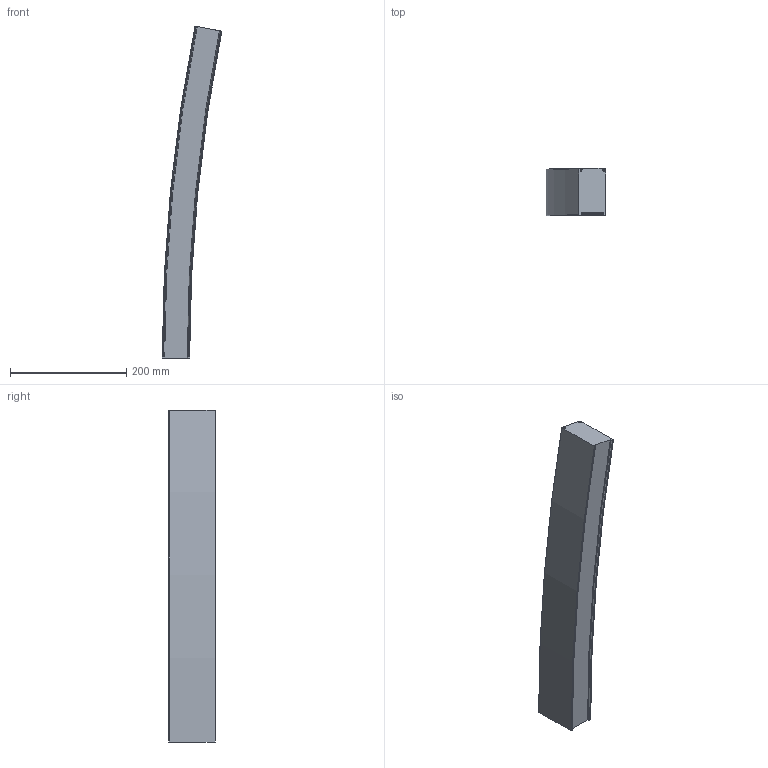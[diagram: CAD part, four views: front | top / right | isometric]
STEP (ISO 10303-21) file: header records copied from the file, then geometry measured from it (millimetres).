
FILE_DESCRIPTION (( 'STEP AP203' ), '1' );
FILE_NAME ('mLight_Swerve 47_R2900 mm 11.25 deg.STEP', '2020-04-01T01:51:25', ( '' ), ( '' ), 'SwSTEP 2.0', 'SolidWorks 2017', '' );
FILE_SCHEMA (( 'CONFIG_CONTROL_DESIGN' ));
Length unit declared in the file: millimetre
Products named in the file (1): mLight_Swerve 47_R2900 mm 11.25 deg
Bounding box: 102.27 x 80.63 x 570.35 mm (x, y, z)
Volume: 2052909.5 mm3; surface area: 164423.7 mm2
Topology: 1 solids, 1 shells, 46 faces, 132 edges, 88 vertices
Faces by surface type: torus 24, plane 10, cylinder 6, cone 6
Entity records: 1645 total; most frequent: DIRECTION 318, CARTESIAN_POINT 267, ORIENTED_EDGE 264, AXIS2_PLACEMENT_3D 139, EDGE_CURVE 132, CIRCLE 92, VERTEX_POINT 88, FACE_OUTER_BOUND 46
